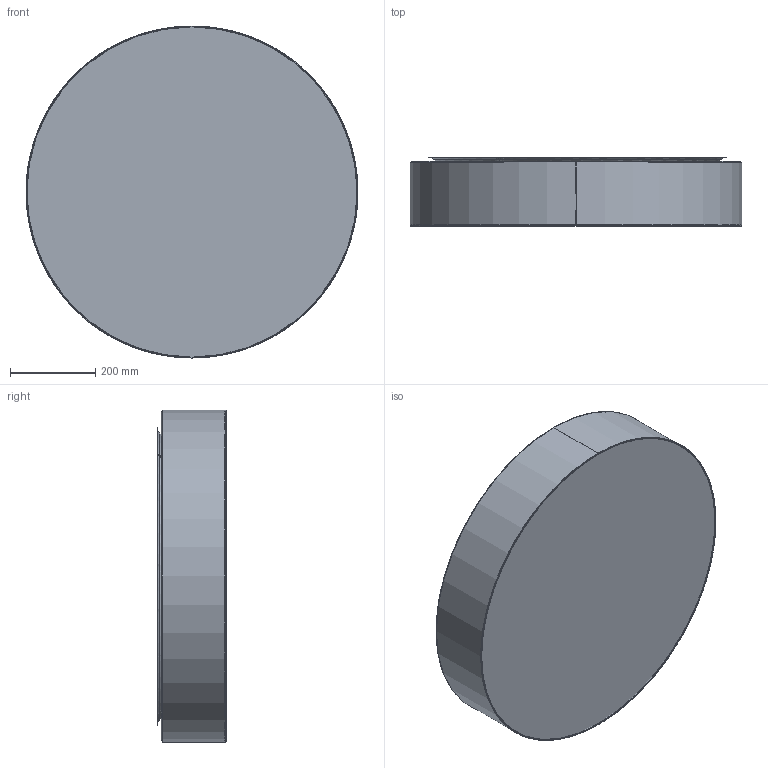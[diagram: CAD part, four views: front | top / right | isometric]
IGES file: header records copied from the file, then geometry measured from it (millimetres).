
Start section: SolidWorks IGES file using analytic representation for surfaces
Global section: file name: Z:\Modele 3D_WWW\_KOLEKCJE_WWW\TURDA\TURDA-8958-8960-8802\TURDA-8958-8960-8802.IGS; native system: SolidWorks 2020; preprocessor: SolidWorks 2020; author: gabriela.tworek; date: 210510.083351; units: millimetre
Bounding box: 780 x 160.32 x 780 mm (x, y, z)
Surface area: 1904243.9 mm2 (no closed solid volume)
Topology: 0 solids, 0 shells, 615 faces, 9137 edges, 8997 vertices
Faces by surface type: revolution 315, bspline 300
